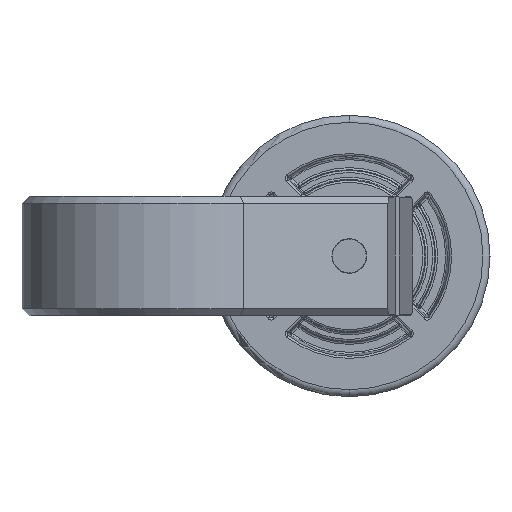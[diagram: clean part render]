
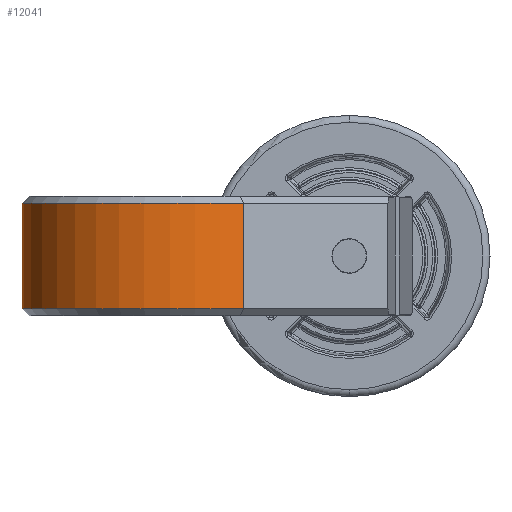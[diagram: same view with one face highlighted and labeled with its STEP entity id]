
A CAD part, left-side view. The second image highlights one B-rep face of the part: STEP entity #12041.
In plain terms, the highlighted cylindrical face has radius 21 mm (diameter 42 mm), a partial arc.
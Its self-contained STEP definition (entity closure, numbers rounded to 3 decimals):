
#2276=DIRECTION('',(0.,0.,1.));
#2277=VECTOR('',#2276,15.);
#2278=CARTESIAN_POINT('',(-39.187,15.,
-7.5));
#2279=LINE('',#2278,#2277);
#2398=CARTESIAN_POINT('',(-21.,25.5,7.5));
#2399=DIRECTION('',(0.,0.,1.));
#2400=DIRECTION('',(1.,0.,0.));
#2401=AXIS2_PLACEMENT_3D('',#2398,#2399,#2400);
#2403=CARTESIAN_POINT('',(-21.,25.5,-7.5));
#2404=DIRECTION('',(0.,0.,-1.));
#2405=DIRECTION('',(-0.866,-0.5,0.));
#2406=AXIS2_PLACEMENT_3D('',#2403,#2404,#2405);
#2408=DIRECTION('',(0.,0.,1.));
#2409=VECTOR('',#2408,15.);
#2410=CARTESIAN_POINT('',(0.,25.5,
-7.5));
#2411=LINE('',#2410,#2409);
#8115=CARTESIAN_POINT('',(0.,25.5,7.5));
#8116=CARTESIAN_POINT('',(-39.187,15.,7.5));
#8117=VERTEX_POINT('',#8115);
#8118=VERTEX_POINT('',#8116);
#8125=CARTESIAN_POINT('',(-39.187,15.,-7.5));
#8126=CARTESIAN_POINT('',(0.,25.5,-7.5));
#8127=VERTEX_POINT('',#8125);
#8128=VERTEX_POINT('',#8126);
#12030=CARTESIAN_POINT('',(-21.,25.5,-8.5));
#12031=DIRECTION('',(0.,0.,1.));
#12032=DIRECTION('',(-1.,0.,0.));
#12033=AXIS2_PLACEMENT_3D('',#12030,#12031,#12032);
#12034=CYLINDRICAL_SURFACE('',#12033,21.);
#12035=ORIENTED_EDGE('',*,*,#12024,.T.);
#12036=ORIENTED_EDGE('',*,*,#11936,.F.);
#12037=ORIENTED_EDGE('',*,*,#11692,.T.);
#12038=ORIENTED_EDGE('',*,*,#11542,.T.);
#12039=EDGE_LOOP('',(#12035,#12036,#12037,#12038));
#12040=FACE_OUTER_BOUND('',#12039,.F.);
#2402=CIRCLE('',#2401,21.);
#2407=CIRCLE('',#2406,21.);
#11542=EDGE_CURVE('',#8128,#8117,#2411,.T.);
#11692=EDGE_CURVE('',#8127,#8128,#2407,.T.);
#11936=EDGE_CURVE('',#8127,#8118,#2279,.T.);
#12024=EDGE_CURVE('',#8117,#8118,#2402,.T.);
#12041=ADVANCED_FACE('',(#12040),#12034,.T.);
